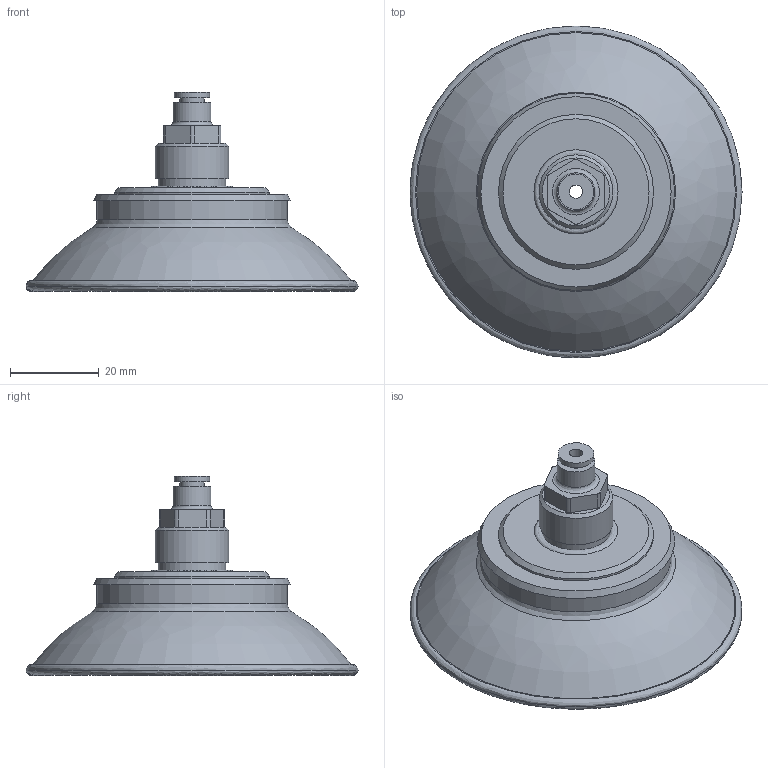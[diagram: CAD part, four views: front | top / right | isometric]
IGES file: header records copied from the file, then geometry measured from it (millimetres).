
Global section: file name: No Iges File Name specified; native system: AutoDesk Inventor R5.0; preprocessor: AutoDesk Inventor Iges Exporter R5.0; author: No Author specified; organization: No Organization specified; date: 20070112.195708; units: millimetre
Bounding box: 75 x 75 x 45 mm (x, y, z)
Surface area: 14248.6 mm2 (no closed solid volume)
Topology: 0 solids, 0 shells, 72 faces, 292 edges, 248 vertices
Faces by surface type: plane 32, revolution 29, bspline 11
